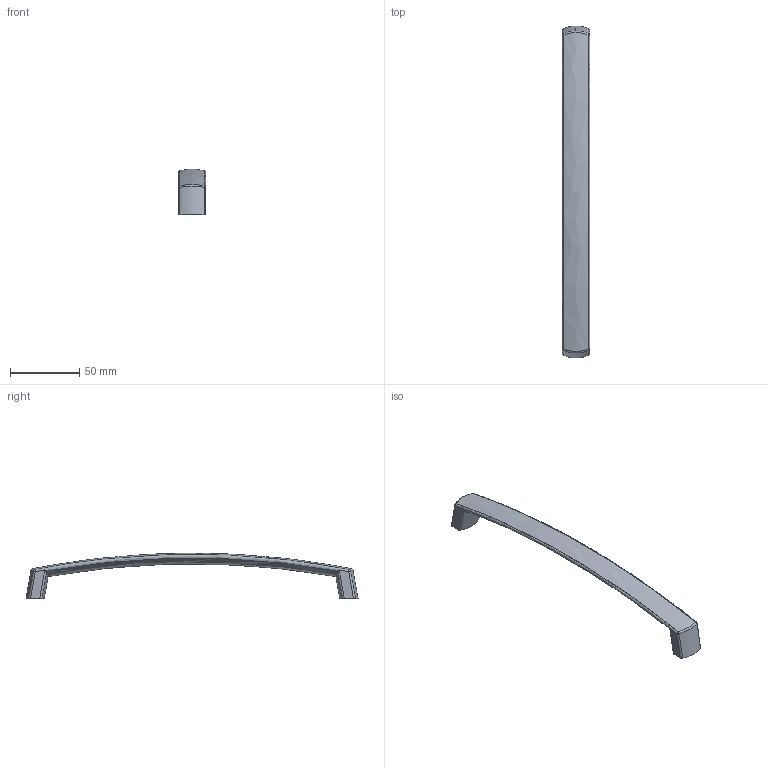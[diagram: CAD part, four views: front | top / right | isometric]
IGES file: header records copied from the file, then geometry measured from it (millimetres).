
Start section: C
Global section: file name: 8059-240.igs; native system: By Siemens PLM Incorporated; preprocessor: XPlus GENERIC/IGES 16.0.42; author: Author; organization: Title; date: 20210505.100206; units: millimetre
Bounding box: 20 x 240 x 32.89 mm (x, y, z)
Surface area: 13439.4 mm2 (no closed solid volume)
Topology: 0 solids, 0 shells, 45 faces, 210 edges, 206 vertices
Faces by surface type: bspline 45
